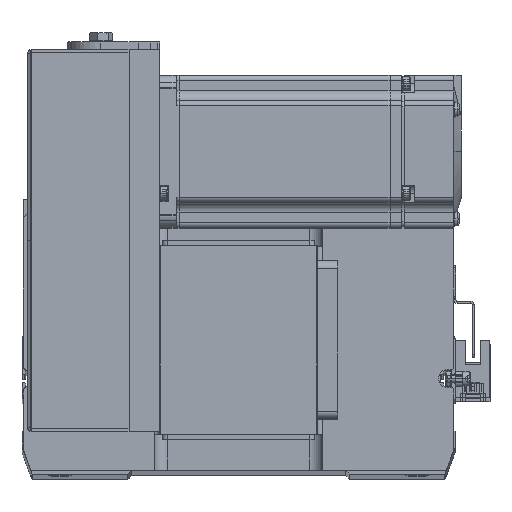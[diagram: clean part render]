
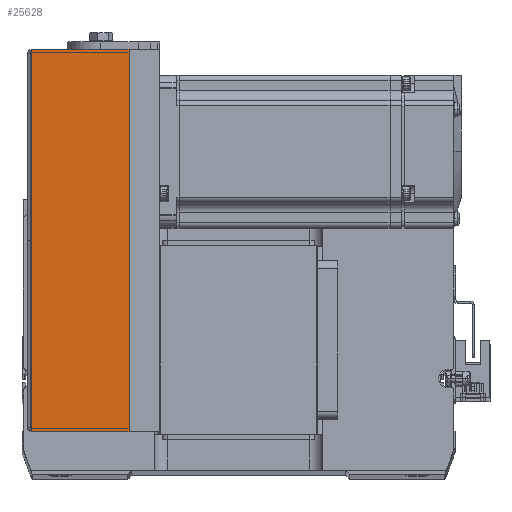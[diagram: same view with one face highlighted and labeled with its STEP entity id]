
A CAD part, top view. The second image highlights one B-rep face of the part: STEP entity #25628.
In plain terms, the highlighted planar face has unit normal (0, 0, 1) as drawn and (0, 1, 0) by its records, which use the part's own axes.
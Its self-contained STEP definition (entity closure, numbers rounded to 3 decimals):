
#324 = VECTOR ( 'NONE', #16389, 1000. ) ;
#2905 = VERTEX_POINT ( 'NONE', #19551 ) ;
#2959 = EDGE_LOOP ( 'NONE', ( #25386, #19519, #16265, #23215 ) ) ;
#3286 = DIRECTION ( 'NONE',  ( 0., 0., -1. ) ) ;
#3350 = CARTESIAN_POINT ( 'NONE',  ( 0., 36., 12. ) ) ;
#5668 = EDGE_CURVE ( 'NONE', #15865, #34695, #39621, .T. ) ;
#5675 = LINE ( 'NONE', #28304, #18274 ) ;
#7484 = DIRECTION ( 'NONE',  ( -1., 0., 0. ) ) ;
#8336 = CARTESIAN_POINT ( 'NONE',  ( -75., 36., 50.3 ) ) ;
#8539 = VECTOR ( 'NONE', #37963, 1000. ) ;
#11927 = CARTESIAN_POINT ( 'NONE',  ( 75., 36., 50.3 ) ) ;
#14928 = VERTEX_POINT ( 'NONE', #11927 ) ;
#15865 = VERTEX_POINT ( 'NONE', #37711 ) ;
#15893 = LINE ( 'NONE', #25502, #32451 ) ;
#16265 = ORIENTED_EDGE ( 'NONE', *, *, #5668, .T. ) ;
#16389 = DIRECTION ( 'NONE',  ( -1., 0., 0. ) ) ;
#17260 = FACE_OUTER_BOUND ( 'NONE', #2959, .T. ) ;
#18274 = VECTOR ( 'NONE', #7484, 1000. ) ;
#19519 = ORIENTED_EDGE ( 'NONE', *, *, #36347, .T. ) ;
#19551 = CARTESIAN_POINT ( 'NONE',  ( -75., 36., 50.3 ) ) ;
#20874 = PLANE ( 'NONE',  #38315 ) ;
#23215 = ORIENTED_EDGE ( 'NONE', *, *, #27581, .F. ) ;
#24958 = LINE ( 'NONE', #8336, #8539 ) ;
#25386 = ORIENTED_EDGE ( 'NONE', *, *, #31466, .F. ) ;
#25502 = CARTESIAN_POINT ( 'NONE',  ( 75., 36., 50.3 ) ) ;
#25628 = ADVANCED_FACE ( 'NONE', ( #17260 ), #20874, .F. ) ;
#27279 = DIRECTION ( 'NONE',  ( 0., -1., 0. ) ) ;
#27581 = EDGE_CURVE ( 'NONE', #2905, #34695, #24958, .T. ) ;
#28304 = CARTESIAN_POINT ( 'NONE',  ( -75., 36., 50.3 ) ) ;
#30268 = CARTESIAN_POINT ( 'NONE',  ( 0., 36., 50.8 ) ) ;
#31466 = EDGE_CURVE ( 'NONE', #14928, #2905, #5675, .T. ) ;
#31637 = CARTESIAN_POINT ( 'NONE',  ( -75., 36., 12. ) ) ;
#32451 = VECTOR ( 'NONE', #3286, 1000. ) ;
#34695 = VERTEX_POINT ( 'NONE', #31637 ) ;
#36347 = EDGE_CURVE ( 'NONE', #14928, #15865, #15893, .T. ) ;
#37086 = DIRECTION ( 'NONE',  ( 0., 0., 1. ) ) ;
#37711 = CARTESIAN_POINT ( 'NONE',  ( 75., 36., 12. ) ) ;
#37963 = DIRECTION ( 'NONE',  ( 0., 0., -1. ) ) ;
#38315 = AXIS2_PLACEMENT_3D ( 'NONE', #30268, #27279, #37086 ) ;
#39621 = LINE ( 'NONE', #3350, #324 ) ;
